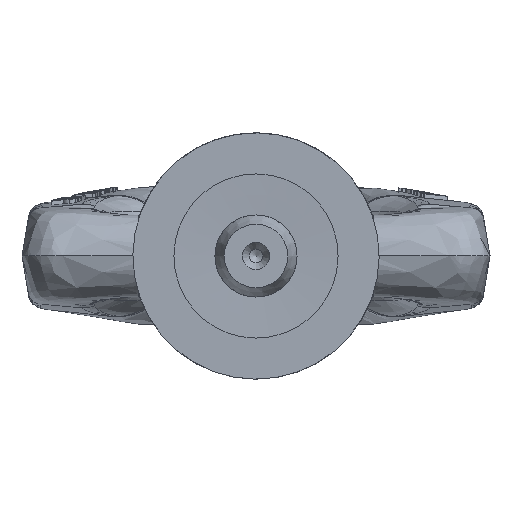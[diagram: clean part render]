
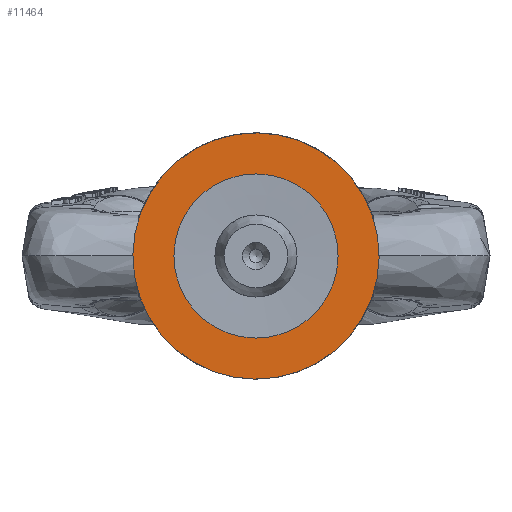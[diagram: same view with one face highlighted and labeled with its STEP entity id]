
A CAD part, front view. The second image highlights one B-rep face of the part: STEP entity #11464.
In plain terms, the highlighted planar face has unit normal (0, -1, 0) as drawn and (0, 0, -1) by its records, which use the part's own axes.
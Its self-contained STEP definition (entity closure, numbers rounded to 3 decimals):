
#230=FACE_BOUND('',#2162,.T.);
#560=CIRCLE('',#12210,15.);
#567=CIRCLE('',#12224,10.);
#811=PLANE('',#12227);
#1422=FACE_OUTER_BOUND('',#2161,.T.);
#2161=EDGE_LOOP('',(#9782));
#2162=EDGE_LOOP('',(#9783));
#5064=VERTEX_POINT('',#41391);
#5071=VERTEX_POINT('',#41412);
#6677=EDGE_CURVE('',#5064,#5064,#560,.T.);
#6684=EDGE_CURVE('',#5071,#5071,#567,.T.);
#9782=ORIENTED_EDGE('',*,*,#6677,.T.);
#9783=ORIENTED_EDGE('',*,*,#6684,.F.);
#11464=ADVANCED_FACE('',(#1422,#230),#811,.F.);
#12210=AXIS2_PLACEMENT_3D('',#41392,#13829,#13830);
#12224=AXIS2_PLACEMENT_3D('',#41413,#13857,#13858);
#12227=AXIS2_PLACEMENT_3D('',#41417,#13863,#13864);
#13829=DIRECTION('center_axis',(0.,0.,-1.));
#13830=DIRECTION('ref_axis',(-1.,0.,0.));
#13857=DIRECTION('center_axis',(0.,0.,-1.));
#13858=DIRECTION('ref_axis',(-1.,0.,0.));
#13863=DIRECTION('center_axis',(0.,0.,1.));
#13864=DIRECTION('ref_axis',(1.,0.,0.));
#41391=CARTESIAN_POINT('',(15.,0.,0.));
#41392=CARTESIAN_POINT('Origin',(0.,0.,0.));
#41412=CARTESIAN_POINT('',(10.,0.,0.));
#41413=CARTESIAN_POINT('Origin',(0.,0.,0.));
#41417=CARTESIAN_POINT('Origin',(0.,0.,0.));
